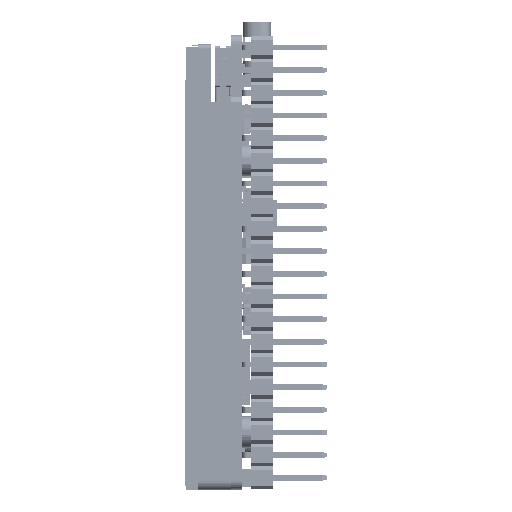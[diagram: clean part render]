
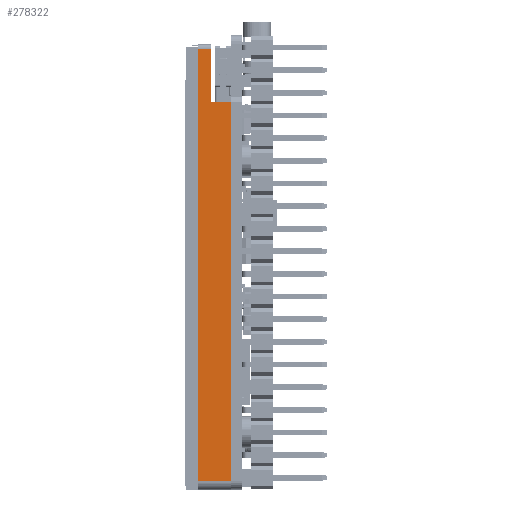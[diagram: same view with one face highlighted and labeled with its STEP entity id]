
A CAD part, left-side view. The second image highlights one B-rep face of the part: STEP entity #278322.
In plain terms, the highlighted planar face has unit normal (-1, 0, 0).
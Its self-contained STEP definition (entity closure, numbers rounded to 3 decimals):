
#277439=DIRECTION('',(0.,0.,1.));
#277440=VECTOR('',#277439,6.);
#277441=CARTESIAN_POINT('',(-12.9,-0.3,20.64));
#277442=LINE('',#277441,#277440);
#277695=DIRECTION('',(0.,-1.,0.));
#277696=VECTOR('',#277695,1.55);
#277697=CARTESIAN_POINT('',(-12.9,1.25,26.64));
#277698=LINE('',#277697,#277696);
#277702=DIRECTION('',(0.,-1.,0.));
#277703=VECTOR('',#277702,2.2);
#277704=CARTESIAN_POINT('',(-12.9,-0.3,20.64));
#277705=LINE('',#277704,#277703);
#277709=DIRECTION('',(0.,0.,-1.));
#277710=VECTOR('',#277709,42.5);
#277711=CARTESIAN_POINT('',(-12.9,-2.5,20.64));
#277712=LINE('',#277711,#277710);
#277716=DIRECTION('',(0.,1.,0.));
#277717=VECTOR('',#277716,3.75);
#277718=CARTESIAN_POINT('',(-12.9,-2.5,-21.86));
#277719=LINE('',#277718,#277717);
#277723=DIRECTION('',(0.,0.,1.));
#277724=VECTOR('',#277723,48.5);
#277725=CARTESIAN_POINT('',(-12.9,1.25,-21.86));
#277726=LINE('',#277725,#277724);
#277967=CARTESIAN_POINT('',(-12.9,-2.5,-21.86));
#277968=VERTEX_POINT('',#277967);
#277982=CARTESIAN_POINT('',(-12.9,-0.3,26.64));
#277984=VERTEX_POINT('',#277982);
#277997=CARTESIAN_POINT('',(-12.9,-0.3,20.64));
#277998=CARTESIAN_POINT('',(-12.9,-2.5,20.64));
#277999=VERTEX_POINT('',#277997);
#278000=VERTEX_POINT('',#277998);
#278039=CARTESIAN_POINT('',(-12.9,1.25,-21.86));
#278040=VERTEX_POINT('',#278039);
#278047=CARTESIAN_POINT('',(-12.9,1.25,26.64));
#278048=VERTEX_POINT('',#278047);
#278307=CARTESIAN_POINT('',(-12.9,-2.5,-21.86));
#278308=DIRECTION('',(-1.,0.,0.));
#278309=DIRECTION('',(0.,0.,1.));
#278310=AXIS2_PLACEMENT_3D('',#278307,#278308,#278309);
#278311=PLANE('',#278310);
#278312=ORIENTED_EDGE('',*,*,#278300,.T.);
#278313=ORIENTED_EDGE('',*,*,#278140,.F.);
#278315=ORIENTED_EDGE('',*,*,#278314,.T.);
#278316=ORIENTED_EDGE('',*,*,#278086,.T.);
#278318=ORIENTED_EDGE('',*,*,#278317,.T.);
#278319=ORIENTED_EDGE('',*,*,#278255,.T.);
#278320=EDGE_LOOP('',(#278312,#278313,#278315,#278316,#278318,#278319));
#278321=FACE_OUTER_BOUND('',#278320,.F.);
#278322=ADVANCED_FACE('',(#278321),#278311,.T.);
#278086=EDGE_CURVE('',#278000,#277968,#277712,.T.);
#278140=EDGE_CURVE('',#277999,#277984,#277442,.T.);
#278255=EDGE_CURVE('',#278040,#278048,#277726,.T.);
#278300=EDGE_CURVE('',#278048,#277984,#277698,.T.);
#278314=EDGE_CURVE('',#277999,#278000,#277705,.T.);
#278317=EDGE_CURVE('',#277968,#278040,#277719,.T.);
